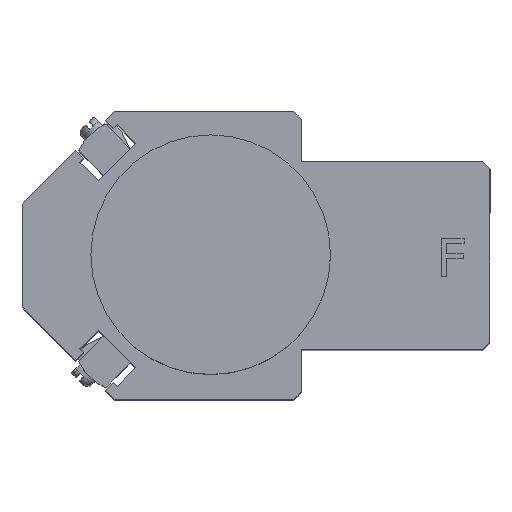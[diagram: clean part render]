
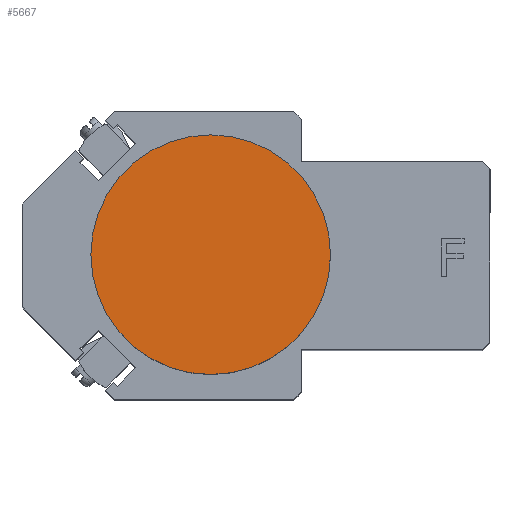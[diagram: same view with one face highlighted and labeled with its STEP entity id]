
A CAD part, top view. The second image highlights one B-rep face of the part: STEP entity #5667.
In plain terms, the highlighted planar face has unit normal (0, 0, 1) as drawn and (1, 0, 0) by its records, which use the part's own axes.
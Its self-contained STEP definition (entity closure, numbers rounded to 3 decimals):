
#477=PLANE('',#6488);
#763=FACE_OUTER_BOUND('',#1097,.T.);
#1097=EDGE_LOOP('',(#5253,#5254));
#2369=CIRCLE('',#6489,15.875);
#2370=CIRCLE('',#6490,15.875);
#2914=VERTEX_POINT('',#9882);
#2915=VERTEX_POINT('',#9883);
#3701=EDGE_CURVE('',#2914,#2915,#2369,.T.);
#3702=EDGE_CURVE('',#2915,#2914,#2370,.T.);
#5253=ORIENTED_EDGE('',*,*,#3701,.F.);
#5254=ORIENTED_EDGE('',*,*,#3702,.F.);
#5667=ADVANCED_FACE('',(#763),#477,.T.);
#6488=AXIS2_PLACEMENT_3D('',#9881,#8103,#8104);
#6489=AXIS2_PLACEMENT_3D('',#9884,#8105,#8106);
#6490=AXIS2_PLACEMENT_3D('',#9885,#8107,#8108);
#8103=DIRECTION('center_axis',(1.,0.,0.));
#8104=DIRECTION('ref_axis',(0.,0.,-1.));
#8105=DIRECTION('center_axis',(-1.,0.,0.));
#8106=DIRECTION('ref_axis',(0.,-1.,0.));
#8107=DIRECTION('center_axis',(-1.,0.,0.));
#8108=DIRECTION('ref_axis',(0.,-1.,0.));
#9881=CARTESIAN_POINT('Origin',(13.,-7.938,0.));
#9882=CARTESIAN_POINT('',(13.,-15.875,0.));
#9883=CARTESIAN_POINT('',(13.,15.875,0.));
#9884=CARTESIAN_POINT('Origin',(13.,0.,0.));
#9885=CARTESIAN_POINT('Origin',(13.,0.,0.));
